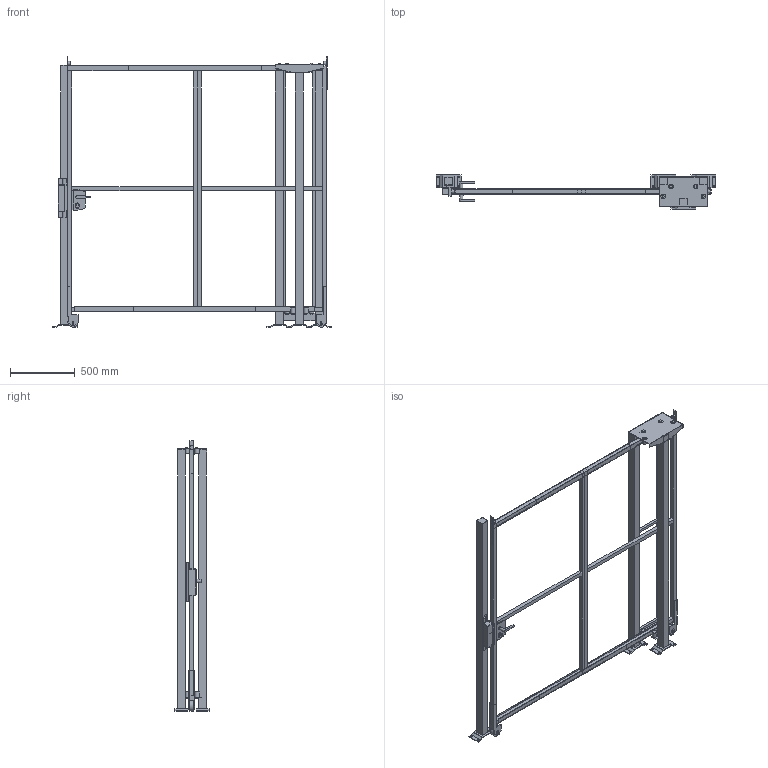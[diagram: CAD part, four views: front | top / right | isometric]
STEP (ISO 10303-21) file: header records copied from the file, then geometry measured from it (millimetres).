
FILE_DESCRIPTION(/* description */ (''),/* implementation_level */ '2;1');
FILE_NAME(/* name */ 'C:\SafeGuarding\ELABORATI\KLADKOUGAMMA_2025-03-20-13-29-28.stp',/* time_stamp */ '2025-03-20T13:29:30+01:00',/* author */ ('admin'),/* organization */ (''),/* preprocessor_version */ 'ST-DEVELOPER v18.1',/* originating_system */ 'AutoCAD Mechanical',/* authorisation */ '');
FILE_SCHEMA (('AUTOMOTIVE_DESIGN { 1 0 10303 214 3 1 1 }'));
Length unit declared in the file: millimetre
Products named in the file (4): Product; R_VFPA.REPE30.10001900; R_VFPA.REPE20.02501900; P_VFMA.V260SDU.2020
Assembly tree (7 placements, depth 2):
  Product
    R_VFPA.REPE30.10001900  x2
    P_VFMA.V260SDU.2020  x4
    R_VFPA.REPE20.02501900
Bounding box: 2162 x 264 x 2090.02 mm (x, y, z)
Volume: 47341157.4 mm3; surface area: 6392688.9 mm2
Topology: 68 solids, 68 shells, 608 faces, 1727 edges, 1679 vertices
Faces by surface type: plane 530, cylinder 74, bspline 4
Full cylindrical faces by diameter (mm): 9 x4, 11 x16, 13 x4, 18 x1, 25 x2, 25.398 x2, 30 x6, 36 x8, 80 x2
Entity records: 16661 total; most frequent: CARTESIAN_POINT 4295, DIRECTION 2469, ORIENTED_EDGE 2254, EDGE_CURVE 1127, LINE 1079, VECTOR 1079, VERTEX_POINT 758, AXIS2_PLACEMENT_3D 695
